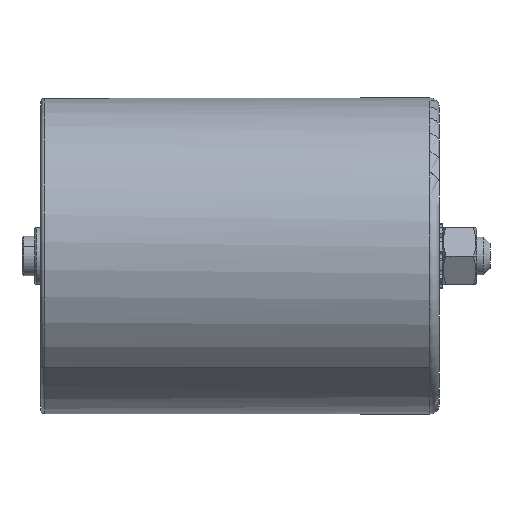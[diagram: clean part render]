
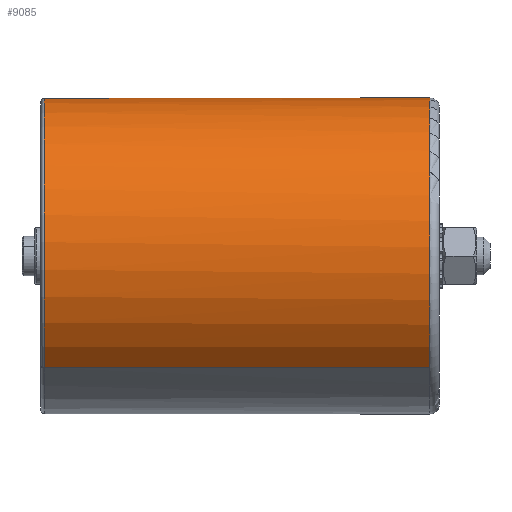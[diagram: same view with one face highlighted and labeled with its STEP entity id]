
A CAD part, left-side view. The second image highlights one B-rep face of the part: STEP entity #9085.
In plain terms, the highlighted cylindrical face has radius 50 mm (diameter 100 mm), a partial arc.
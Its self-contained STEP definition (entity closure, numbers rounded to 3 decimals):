
#96 = VECTOR ( 'NONE', #2247, 1000. ) ;
#378 = DIRECTION ( 'NONE',  ( 0., 0., 1. ) ) ;
#401 = ORIENTED_EDGE ( 'NONE', *, *, #9073, .T. ) ;
#1395 = AXIS2_PLACEMENT_3D ( 'NONE', #6778, #2419, #4306 ) ;
#1519 = EDGE_CURVE ( 'NONE', #4894, #1794, #4022, .T. ) ;
#1794 = VERTEX_POINT ( 'NONE', #3722 ) ;
#1797 = CIRCLE ( 'NONE', #5561, 50. ) ;
#2247 = DIRECTION ( 'NONE',  ( 0., 1., 0. ) ) ;
#2419 = DIRECTION ( 'NONE',  ( 0., 1., 0. ) ) ;
#2568 = ORIENTED_EDGE ( 'NONE', *, *, #1519, .F. ) ;
#2707 = EDGE_CURVE ( 'NONE', #4894, #4709, #11563, .T. ) ;
#2812 = CARTESIAN_POINT ( 'NONE',  ( 0., 125., 0. ) ) ;
#3186 = FACE_OUTER_BOUND ( 'NONE', #5916, .T. ) ;
#3221 = CARTESIAN_POINT ( 'NONE',  ( 0., 3., 50. ) ) ;
#3722 = CARTESIAN_POINT ( 'NONE',  ( -35.355, 125., -35.355 ) ) ;
#3924 = CARTESIAN_POINT ( 'NONE',  ( 0., 3., 0. ) ) ;
#3945 = VECTOR ( 'NONE', #4082, 1000. ) ;
#4018 = CARTESIAN_POINT ( 'NONE',  ( 35.355, 116., 35.355 ) ) ;
#4022 = LINE ( 'NONE', #4900, #3945 ) ;
#4082 = DIRECTION ( 'NONE',  ( 0., 1., 0. ) ) ;
#4201 = EDGE_CURVE ( 'NONE', #4709, #8063, #11351, .T. ) ;
#4306 = DIRECTION ( 'NONE',  ( 0.707, 0., 0.707 ) ) ;
#4479 = CARTESIAN_POINT ( 'NONE',  ( 35.355, 3., 35.355 ) ) ;
#4562 = EDGE_CURVE ( 'NONE', #11518, #1794, #1797, .T. ) ;
#4612 = AXIS2_PLACEMENT_3D ( 'NONE', #6530, #5539, #9230 ) ;
#4709 = VERTEX_POINT ( 'NONE', #3221 ) ;
#4765 = CARTESIAN_POINT ( 'NONE',  ( 35.355, 125., 35.355 ) ) ;
#4894 = VERTEX_POINT ( 'NONE', #11603 ) ;
#4900 = CARTESIAN_POINT ( 'NONE',  ( -35.355, 116., -35.355 ) ) ;
#5539 = DIRECTION ( 'NONE',  ( 0., 1., 0. ) ) ;
#5561 = AXIS2_PLACEMENT_3D ( 'NONE', #2812, #10802, #10042 ) ;
#5916 = EDGE_LOOP ( 'NONE', ( #2568, #7665, #10180, #401, #6011 ) ) ;
#6011 = ORIENTED_EDGE ( 'NONE', *, *, #4562, .T. ) ;
#6019 = CYLINDRICAL_SURFACE ( 'NONE', #1395, 50. ) ;
#6530 = CARTESIAN_POINT ( 'NONE',  ( 0., 3., 0. ) ) ;
#6684 = DIRECTION ( 'NONE',  ( 0., 1., 0. ) ) ;
#6778 = CARTESIAN_POINT ( 'NONE',  ( 0., 116., 0. ) ) ;
#7665 = ORIENTED_EDGE ( 'NONE', *, *, #2707, .T. ) ;
#8063 = VERTEX_POINT ( 'NONE', #4479 ) ;
#9073 = EDGE_CURVE ( 'NONE', #8063, #11518, #9357, .T. ) ;
#9085 = ADVANCED_FACE ( 'NONE', ( #3186 ), #6019, .T. ) ;
#9230 = DIRECTION ( 'NONE',  ( 0., 0., 1. ) ) ;
#9357 = LINE ( 'NONE', #4018, #96 ) ;
#10042 = DIRECTION ( 'NONE',  ( -0.707, 0., -0.707 ) ) ;
#10180 = ORIENTED_EDGE ( 'NONE', *, *, #4201, .T. ) ;
#10455 = AXIS2_PLACEMENT_3D ( 'NONE', #3924, #6684, #378 ) ;
#10802 = DIRECTION ( 'NONE',  ( 0., -1., 0. ) ) ;
#11351 = CIRCLE ( 'NONE', #4612, 50. ) ;
#11518 = VERTEX_POINT ( 'NONE', #4765 ) ;
#11563 = CIRCLE ( 'NONE', #10455, 50. ) ;
#11603 = CARTESIAN_POINT ( 'NONE',  ( -35.355, 3., -35.355 ) ) ;
